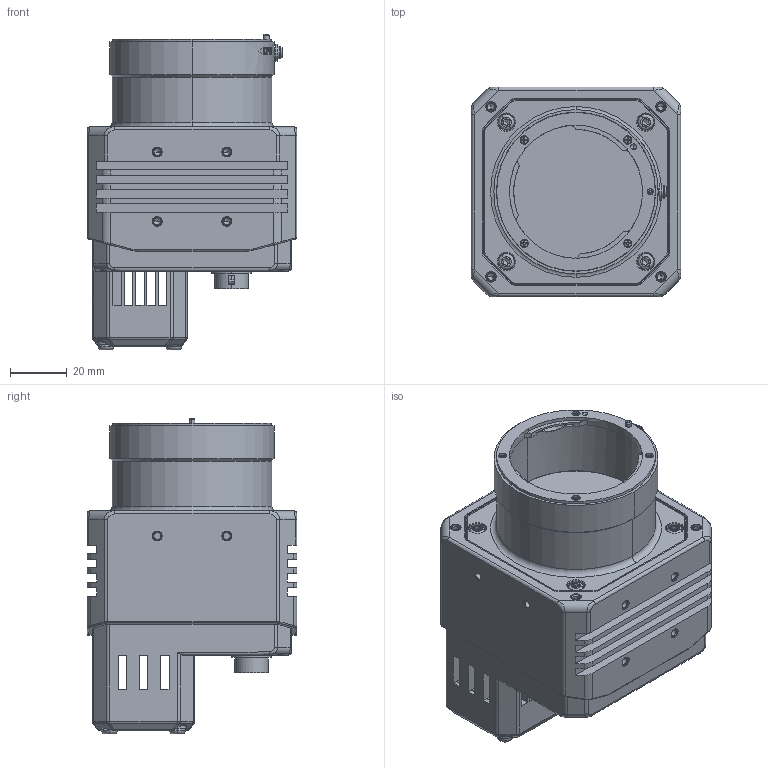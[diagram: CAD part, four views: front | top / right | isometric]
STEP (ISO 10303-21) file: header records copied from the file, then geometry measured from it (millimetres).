
FILE_DESCRIPTION((''),'2;1');
FILE_NAME('25_ASM','2019-08-17T14:57:52',('wangyijun6'),(''),'CREO PARAMETRIC BY PTC INC, 2017260','CREO PARAMETRIC BY PTC INC, 2017260','');
FILE_SCHEMA(('CONFIG_CONTROL_DESIGN'));
Products named in the file (1): 25_ASM
Bounding box: 74 x 74 x 111.38 mm (x, y, z)
Volume: 303950.4 mm3; surface area: 71294.8 mm2
Topology: 2 solids, 64 shells, 2775 faces, 7889 edges, 5218 vertices
Faces by surface type: plane 1290, cylinder 906, bspline 216, cone 206, extrusion 78, torus 71, revolution 4, sphere 4
Entity records: 115694 total; most frequent: CARTESIAN_POINT 44564, ORIENTED_EDGE 15172, DIRECTION 14096, EDGE_CURVE 7821, VERTEX_POINT 5218, AXIS2_PLACEMENT_3D 4845, VECTOR 4402, LINE 4324
